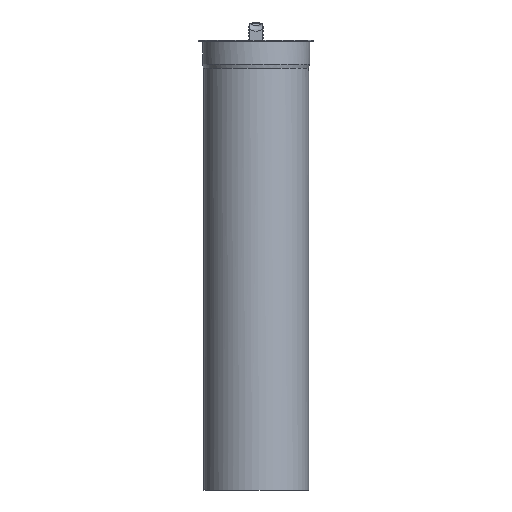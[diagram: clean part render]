
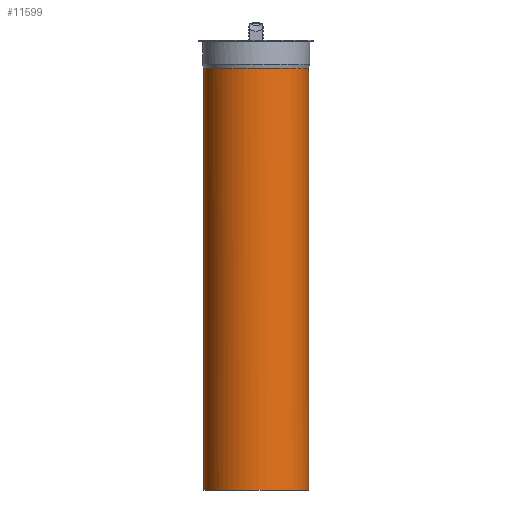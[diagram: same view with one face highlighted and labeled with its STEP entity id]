
A CAD part, front view. The second image highlights one B-rep face of the part: STEP entity #11599.
In plain terms, the highlighted free-form (B-spline) face has degree [2, 1] with [7, 2] control points.
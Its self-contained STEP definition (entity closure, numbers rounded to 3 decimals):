
#11504=CARTESIAN_POINT('V347',(-1.423,76.256,
   660.0));
#11505=VERTEX_POINT('V347',#11504);
#11511=CARTESIAN_POINT('V346',(74.577,0.256,
   660.0));
#11512=VERTEX_POINT('V346',#11511);
#11513=CARTESIAN_POINT('E543',(74.577,0.256,
   660.0));
#11514=CARTESIAN_POINT('E543',(74.577,
   -131.38,660.0));
#11515=CARTESIAN_POINT('E543',(-39.423,
   -65.562,660.0));
#11516=CARTESIAN_POINT('E543',(-153.423,
   0.256,660.0));
#11517=CARTESIAN_POINT('E543',(-39.423,
   66.074,660.0));
#11518=CARTESIAN_POINT('E543',(-21.787,
   76.256,660.0));
#11519=CARTESIAN_POINT('E543',(-1.423,76.256,
   660.0));
#11527=(BOUNDED_CURVE()B_SPLINE_CURVE(2,(#11513,#11514,#11515,
   #11516,#11517,#11518,#11519),.CIRCULAR_ARC.,.F.,.U.)
   B_SPLINE_CURVE_WITH_KNOTS((3,2,2,3),(0.0,0.333,
   0.667,0.756),.UNSPECIFIED.)CURVE()
   GEOMETRIC_REPRESENTATION_ITEM()RATIONAL_B_SPLINE_CURVE((1.0,
   0.5,1.0,0.5,1.0,0.866,
   0.804))REPRESENTATION_ITEM('E543'));
#11528=EDGE_CURVE('E543',#11512,#11505,#11527,.T.);
#11530=CARTESIAN_POINT('E544',(-1.423,76.256,
   660.0));
#11531=CARTESIAN_POINT('E544',(74.577,76.256,
   660.0));
#11532=CARTESIAN_POINT('E544',(74.577,0.256,
   660.0));
#11540=(BOUNDED_CURVE()B_SPLINE_CURVE(2,(#11530,#11531,#11532),
   .CIRCULAR_ARC.,.F.,.U.)B_SPLINE_CURVE_WITH_KNOTS((3,3),(
   0.756,1.0),.UNSPECIFIED.)CURVE()
   GEOMETRIC_REPRESENTATION_ITEM()RATIONAL_B_SPLINE_CURVE((
   0.804,0.634,1.0))REPRESENTATION_ITEM(
   'E544'));
#11541=EDGE_CURVE('E544',#11505,#11512,#11540,.T.);
#11548=CARTESIAN_POINT('F204',(74.577,0.256,
   49.1));
#11549=CARTESIAN_POINT('F204',(74.577,
   131.892,49.1));
#11550=CARTESIAN_POINT('F204',(-39.423,
   66.074,49.1));
#11551=CARTESIAN_POINT('F204',(-153.423,
   0.256,49.1));
#11552=CARTESIAN_POINT('F204',(-39.423,
   -65.562,49.1));
#11553=CARTESIAN_POINT('F204',(74.577,
   -131.38,49.1));
#11554=CARTESIAN_POINT('F204',(74.577,0.256,
   49.1));
#11555=CARTESIAN_POINT('F204',(74.577,0.256,
   660.0));
#11556=CARTESIAN_POINT('F204',(74.577,
   131.892,660.0));
#11557=CARTESIAN_POINT('F204',(-39.423,
   66.074,660.0));
#11558=CARTESIAN_POINT('F204',(-153.423,
   0.256,660.0));
#11559=CARTESIAN_POINT('F204',(-39.423,
   -65.562,660.0));
#11560=CARTESIAN_POINT('F204',(74.577,
   -131.38,660.0));
#11561=CARTESIAN_POINT('F204',(74.577,0.256,
   660.0));
#11569=(BOUNDED_SURFACE()B_SPLINE_SURFACE(2,1,((#11548,#11555),(
   #11549,#11556),(#11550,#11557),(#11551,#11558),(#11552,
   #11559),(#11553,#11560),(#11554,#11561)),.CYLINDRICAL_SURF.,
   .T.,.F.,.U.)B_SPLINE_SURFACE_WITH_KNOTS((3,2,2,3),(2,2),(0.0,
   0.431,0.862,1.293),(0.0,1.0),
   .UNSPECIFIED.)GEOMETRIC_REPRESENTATION_ITEM()
   RATIONAL_B_SPLINE_SURFACE(((1.0,1.0),(0.5,
   0.5),(1.0,1.0),(0.5,
   0.5),(1.0,1.0),(0.5,
   0.5),(1.0,1.0)))REPRESENTATION_ITEM('F204')
   SURFACE());
#11570=CARTESIAN_POINT('V345',(74.577,0.256,
   49.1));
#11571=VERTEX_POINT('V345',#11570);
#11572=CARTESIAN_POINT('E541',(74.577,0.256,
   49.1));
#11573=CARTESIAN_POINT('E541',(74.577,
   131.892,49.1));
#11574=CARTESIAN_POINT('E541',(-39.423,
   66.074,49.1));
#11575=CARTESIAN_POINT('E541',(-153.423,
   0.256,49.1));
#11576=CARTESIAN_POINT('E541',(-39.423,
   -65.562,49.1));
#11577=CARTESIAN_POINT('E541',(74.577,
   -131.38,49.1));
#11578=CARTESIAN_POINT('E541',(74.577,0.256,
   49.1));
#11586=(BOUNDED_CURVE()B_SPLINE_CURVE(2,(#11572,#11573,#11574,
   #11575,#11576,#11577,#11578),.CIRCULAR_ARC.,.T.,.U.)
   B_SPLINE_CURVE_WITH_KNOTS((3,2,2,3),(0.0,0.333,
   0.667,1.0),.UNSPECIFIED.)CURVE()
   GEOMETRIC_REPRESENTATION_ITEM()RATIONAL_B_SPLINE_CURVE((1.0,
   0.5,1.0,0.5,1.0,0.5,1.0)
   )REPRESENTATION_ITEM('E541'));
#11587=EDGE_CURVE('E541',#11571,#11571,#11586,.T.);
#11588=ORIENTED_EDGE('E541',*,*,#11587,.T.);
#11589=CARTESIAN_POINT('E542',(74.577,0.256,
   660.0));
#11590=CARTESIAN_POINT('E542',(74.577,0.256,
   49.1));
#11591=QUASI_UNIFORM_CURVE('E542',1,(#11589,#11590),.POLYLINE_FORM.,
   .F.,.U.);
#11592=EDGE_CURVE('E542',#11512,#11571,#11591,.T.);
#11593=ORIENTED_EDGE('E542',*,*,#11592,.F.);
#11594=ORIENTED_EDGE('E543',*,*,#11528,.T.);
#11595=ORIENTED_EDGE('E544',*,*,#11541,.T.);
#11596=ORIENTED_EDGE('E542',*,*,#11592,.T.);
#11597=EDGE_LOOP('F204',(#11588,#11593,#11594,#11595,#11596));
#11598=FACE_OUTER_BOUND('F204',#11597,.T.);
#11599=ADVANCED_FACE('F204',(#11598),#11569,.T.);
